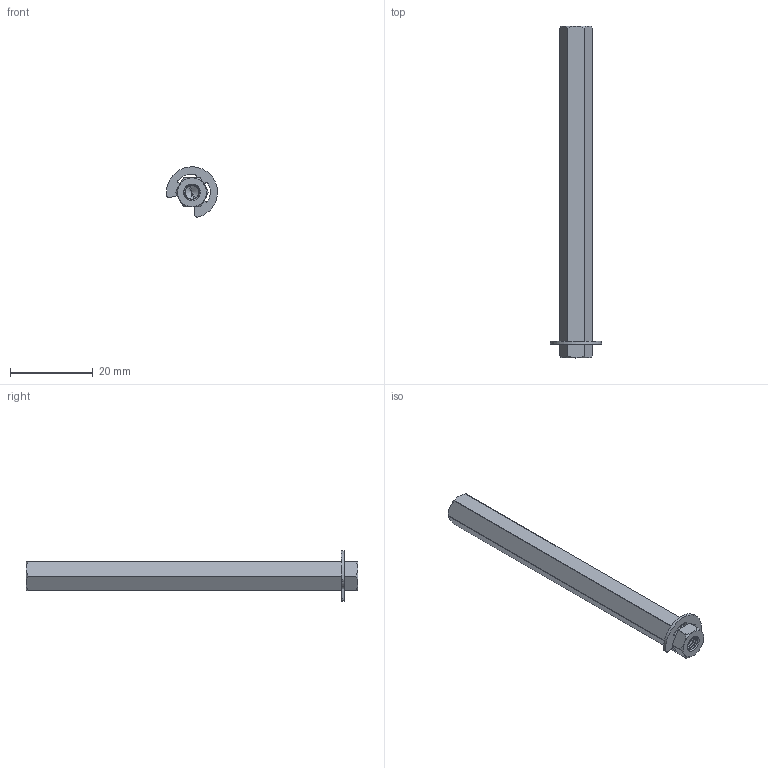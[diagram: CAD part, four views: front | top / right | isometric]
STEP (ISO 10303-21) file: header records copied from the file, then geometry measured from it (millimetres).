
FILE_DESCRIPTION (( 'STEP AP203' ), '1' );
FILE_NAME ('2106-4008-0800 assembly.STEP', '2021-05-10T21:55:25', ( '' ), ( '' ), 'SwSTEP 2.0', 'SolidWorks 2016', '' );
FILE_SCHEMA (( 'CONFIG_CONTROL_DESIGN' ));
Length unit declared in the file: millimetre
Products named in the file (3): 2106-4008-0800; 2106 Series 8mm REX e-clip; 2106-4008-0800 assembly
Assembly tree (2 placements, depth 2):
  2106-4008-0800 assembly
    2106-4008-0800
    2106 Series 8mm REX e-clip
Bounding box: 12.29 x 80 x 12.15 mm (x, y, z)
Volume: 3136.1 mm3; surface area: 2654.6 mm2
Topology: 2 solids, 2 shells, 220 faces, 624 edges, 408 vertices
Faces by surface type: cylinder 168, plane 26, cone 22, bspline 4
Entity records: 13217 total; most frequent: CARTESIAN_POINT 8047, ORIENTED_EDGE 1240, DIRECTION 846, EDGE_CURVE 620, VERTEX_POINT 408, AXIS2_PLACEMENT_3D 315, EDGE_LOOP 224, ADVANCED_FACE 220
